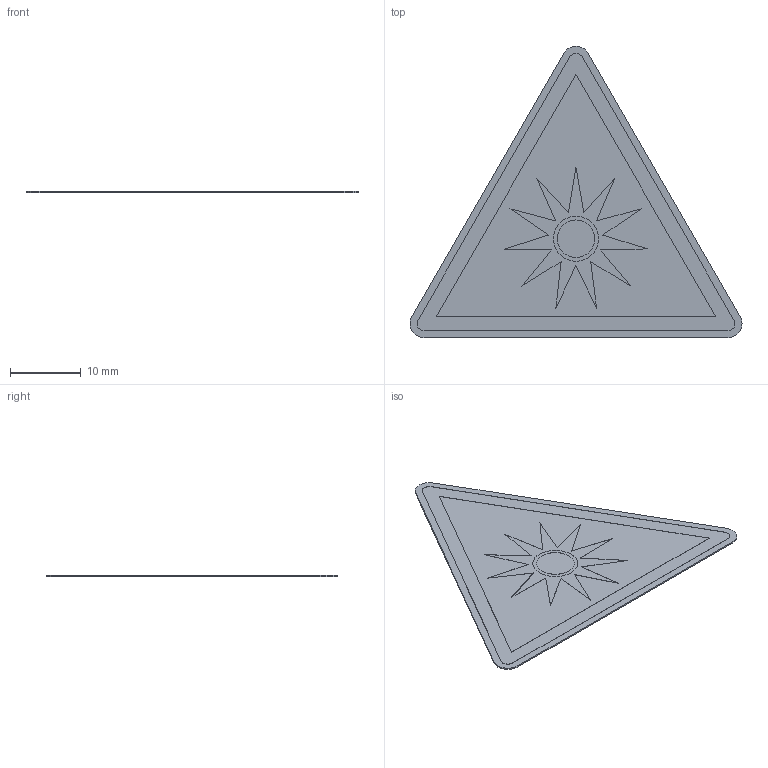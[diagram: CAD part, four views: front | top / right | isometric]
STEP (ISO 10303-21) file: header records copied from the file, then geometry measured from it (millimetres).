
FILE_DESCRIPTION (( 'STEP AP214' ), '1' );
FILE_NAME ('W027_Warnung vor optischer Strahlung.STEP', '2022-02-22T08:22:48', ( '' ), ( '' ), 'SwSTEP 2.0', 'SolidWorks 2021', '' );
FILE_SCHEMA (( 'AUTOMOTIVE_DESIGN' ));
Length unit declared in the file: millimetre
Products named in the file (1): W027_Warnung vor optischer Strahlung
Bounding box: 47.07 x 41.3 x 0.22 mm (x, y, z)
Volume: 221.1 mm3; surface area: 2183.9 mm2
Topology: 1 solids, 1 shells, 50 faces, 129 edges, 86 vertices
Faces by surface type: plane 38, cylinder 12
Entity records: 1980 total; most frequent: CARTESIAN_POINT 266, ORIENTED_EDGE 258, DIRECTION 255, EDGE_CURVE 129, VECTOR 105, LINE 105, VERTEX_POINT 86, AXIS2_PLACEMENT_3D 75
